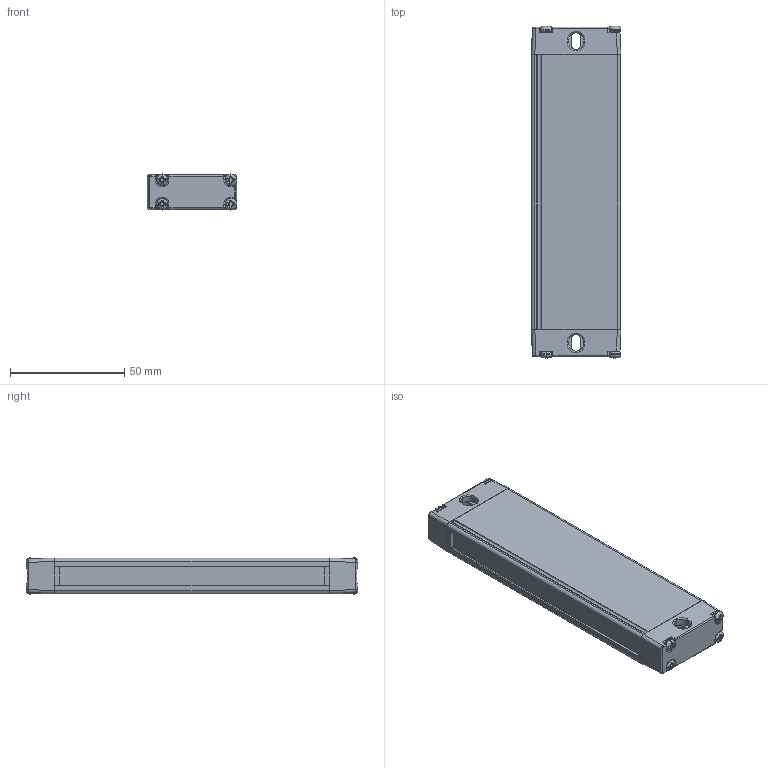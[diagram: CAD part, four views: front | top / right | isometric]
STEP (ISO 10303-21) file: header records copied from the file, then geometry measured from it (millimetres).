
FILE_DESCRIPTION((''),'2;1');
FILE_NAME('EB15--3610_ASM','2021-07-22T09:55:57',('18720616900'),(''),'CREO PARAMETRIC BY PTC INC, 2019010','CREO PARAMETRIC BY PTC INC, 2019010','');
FILE_SCHEMA(('CONFIG_CONTROL_DESIGN'));
Length unit declared in the file: millimetre
Products named in the file (6): EB15-00; EB15-000; EB15-0003; EB15-0004; ST-3-12; EB15--3610_ASM
Assembly tree (12 placements, depth 2):
  EB15--3610_ASM
    EB15-00
    EB15-000
    EB15-0003
    EB15-0004
    ST-3-12  x8
Bounding box: 39.15 x 145 x 15.8 mm (x, y, z)
Volume: 86456.1 mm3; surface area: 26025.7 mm2
Topology: 12 solids, 12 shells, 827 faces, 2188 edges, 1368 vertices
Faces by surface type: plane 242, bspline 188, cone 176, cylinder 165, torus 40, sphere 16
Entity records: 16044 total; most frequent: CARTESIAN_POINT 7660, ORIENTED_EDGE 1804, DIRECTION 1603, EDGE_CURVE 902, AXIS2_PLACEMENT_3D 577, VERTEX_POINT 563, VECTOR 449, LINE 449
